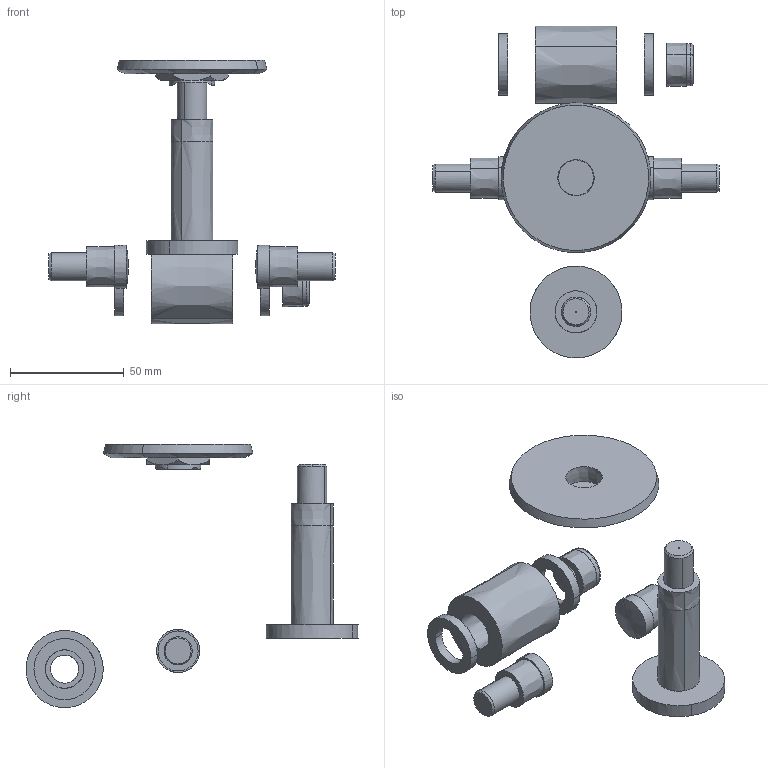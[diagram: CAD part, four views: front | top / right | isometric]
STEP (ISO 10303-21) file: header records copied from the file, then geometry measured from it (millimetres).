
FILE_DESCRIPTION (( 'STEP AP214' ), '1' );
FILE_NAME ('KTU-150WJ-GS-40.STEP', '2018-08-30T06:57:19', ( '' ), ( '' ), 'SwSTEP 2.0', 'SolidWorks 2010', '' );
FILE_SCHEMA (( 'AUTOMOTIVE_DESIGN' ));
Length unit declared in the file: millimetre
Products named in the file (1): KTU-150WJ-GS-40
Bounding box: 126 x 146.23 x 116 mm (x, y, z)
Volume: 86859.3 mm3; surface area: 30973.7 mm2
Topology: 8 solids, 8 shells, 107 faces, 341 edges, 255 vertices
Faces by surface type: bspline 62, plane 39, cone 6
Entity records: 12768 total; most frequent: CARTESIAN_POINT 9553, ORIENTED_EDGE 670, EDGE_CURVE 335, VERTEX_POINT 255, B_SPLINE_CURVE_WITH_KNOTS 252, DIRECTION 181, EDGE_LOOP 126, FACE_OUTER_BOUND 107
